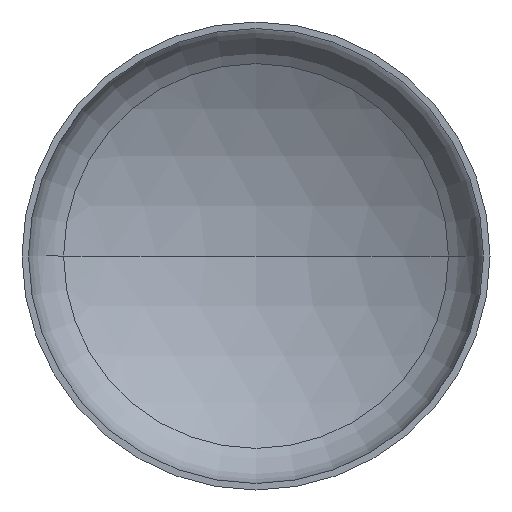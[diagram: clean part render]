
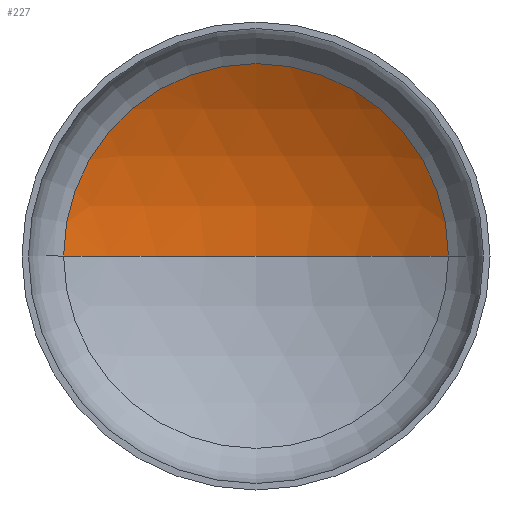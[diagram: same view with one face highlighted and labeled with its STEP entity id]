
A CAD part, front view. The second image highlights one B-rep face of the part: STEP entity #227.
In plain terms, the highlighted spherical face has radius 4800 mm.
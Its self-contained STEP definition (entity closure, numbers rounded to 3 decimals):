
#71 = CARTESIAN_POINT ( 'NONE',  ( 0., -3224.386, 0. ) ) ;
#84 = EDGE_CURVE ( 'NONE', #124, #106, #346, .T. ) ;
#89 = EDGE_CURVE ( 'NONE', #142, #124, #279, .T. ) ;
#91 = DIRECTION ( 'NONE',  ( 0., 0., -1. ) ) ;
#97 = EDGE_CURVE ( 'NONE', #142, #106, #137, .T. ) ;
#106 = VERTEX_POINT ( 'NONE', #193 ) ;
#116 = ORIENTED_EDGE ( 'NONE', *, *, #84, .T. ) ;
#124 = VERTEX_POINT ( 'NONE', #195 ) ;
#128 = ORIENTED_EDGE ( 'NONE', *, *, #89, .T. ) ;
#134 = EDGE_LOOP ( 'NONE', ( #363, #128, #116 ) ) ;
#137 = CIRCLE ( 'NONE', #328, 4800. ) ;
#142 = VERTEX_POINT ( 'NONE', #258 ) ;
#164 = DIRECTION ( 'NONE',  ( 0., 0., 1. ) ) ;
#165 = DIRECTION ( 'NONE',  ( 1., 0., 0. ) ) ;
#169 = CARTESIAN_POINT ( 'NONE',  ( 0., 893.563, 0. ) ) ;
#170 = DIRECTION ( 'NONE',  ( 0., -1., 0. ) ) ;
#192 = CARTESIAN_POINT ( 'NONE',  ( 0., -3224.386, 0. ) ) ;
#193 = CARTESIAN_POINT ( 'NONE',  ( -2466.271, 893.563, 0. ) ) ;
#195 = CARTESIAN_POINT ( 'NONE',  ( 2466.271, 893.563, 0. ) ) ;
#199 = DIRECTION ( 'NONE',  ( 0., 0., -1. ) ) ;
#202 = DIRECTION ( 'NONE',  ( -1., 0., 0. ) ) ;
#209 = CARTESIAN_POINT ( 'NONE',  ( 0., -3224.386, 0. ) ) ;
#222 = AXIS2_PLACEMENT_3D ( 'NONE', #71, #91, #354 ) ;
#227 = ADVANCED_FACE ( 'NONE', ( #261 ), #321, .F. ) ;
#258 = CARTESIAN_POINT ( 'NONE',  ( 0., 1575.614, 0. ) ) ;
#261 = FACE_OUTER_BOUND ( 'NONE', #134, .T. ) ;
#275 = DIRECTION ( 'NONE',  ( 1., 0., 0. ) ) ;
#279 = CIRCLE ( 'NONE', #318, 4800. ) ;
#297 = AXIS2_PLACEMENT_3D ( 'NONE', #169, #170, #275 ) ;
#318 = AXIS2_PLACEMENT_3D ( 'NONE', #209, #199, #202 ) ;
#321 = SPHERICAL_SURFACE ( 'NONE', #222, 4800. ) ;
#328 = AXIS2_PLACEMENT_3D ( 'NONE', #192, #164, #165 ) ;
#346 = CIRCLE ( 'NONE', #297, 2466.271 ) ;
#354 = DIRECTION ( 'NONE',  ( -1., 0., 0. ) ) ;
#363 = ORIENTED_EDGE ( 'NONE', *, *, #97, .F. ) ;
